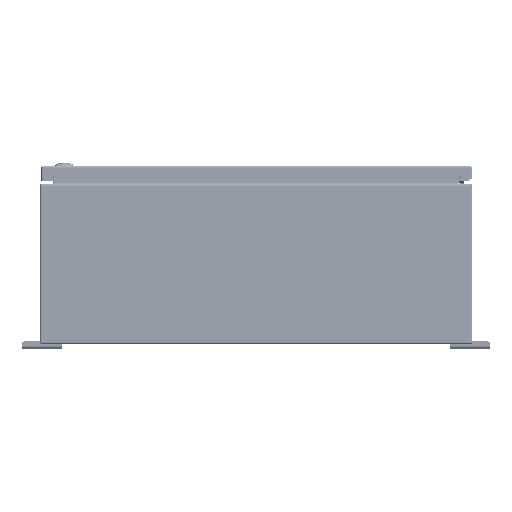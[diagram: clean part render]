
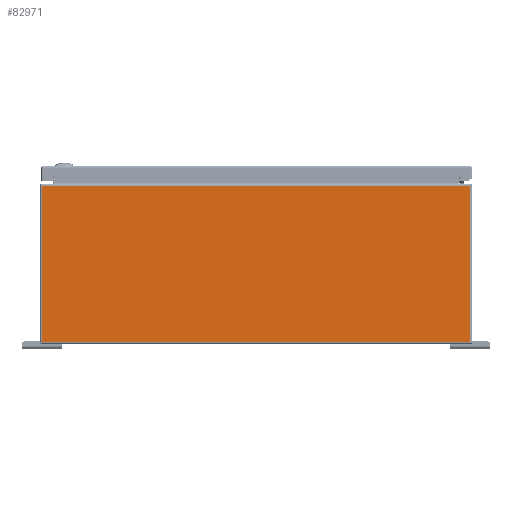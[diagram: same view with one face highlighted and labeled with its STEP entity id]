
A CAD part, left-side view. The second image highlights one B-rep face of the part: STEP entity #82971.
In plain terms, the highlighted planar face has unit normal (-1, 0, 0).
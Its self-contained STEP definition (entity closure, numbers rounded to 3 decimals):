
#4981=PLANE('',#89054);
#7071=LINE('',#118022,#13310);
#7072=LINE('',#118026,#13311);
#7073=LINE('',#118028,#13312);
#7074=LINE('',#118030,#13313);
#7075=LINE('',#118032,#13314);
#7076=LINE('',#118033,#13315);
#13310=VECTOR('',#96734,0.394);
#13311=VECTOR('',#96739,0.394);
#13312=VECTOR('',#96740,0.394);
#13313=VECTOR('',#96741,0.394);
#13314=VECTOR('',#96742,0.394);
#13315=VECTOR('',#96743,0.394);
#20829=FACE_OUTER_BOUND('',#25869,.T.);
#25869=EDGE_LOOP('',(#56062,#56063,#56064,#56065,#56066,#56067));
#34664=VERTEX_POINT('',#118004);
#34671=VERTEX_POINT('',#118021);
#34672=VERTEX_POINT('',#118025);
#34673=VERTEX_POINT('',#118027);
#34674=VERTEX_POINT('',#118029);
#34675=VERTEX_POINT('',#118031);
#42971=EDGE_CURVE('',#34664,#34671,#7071,.T.);
#42973=EDGE_CURVE('',#34672,#34664,#7072,.T.);
#42974=EDGE_CURVE('',#34672,#34673,#7073,.T.);
#42975=EDGE_CURVE('',#34674,#34673,#7074,.T.);
#42976=EDGE_CURVE('',#34675,#34674,#7075,.T.);
#42977=EDGE_CURVE('',#34675,#34671,#7076,.T.);
#56062=ORIENTED_EDGE('',*,*,#42973,.F.);
#56063=ORIENTED_EDGE('',*,*,#42974,.T.);
#56064=ORIENTED_EDGE('',*,*,#42975,.F.);
#56065=ORIENTED_EDGE('',*,*,#42976,.F.);
#56066=ORIENTED_EDGE('',*,*,#42977,.T.);
#56067=ORIENTED_EDGE('',*,*,#42971,.F.);
#82971=ADVANCED_FACE('',(#20829),#4981,.F.);
#89054=AXIS2_PLACEMENT_3D('',#118024,#96737,#96738);
#96734=DIRECTION('',(0.,0.,-1.));
#96737=DIRECTION('center_axis',(1.,0.,0.));
#96738=DIRECTION('ref_axis',(0.,0.,-1.));
#96739=DIRECTION('',(0.,-1.,0.));
#96740=DIRECTION('',(0.,1.,0.));
#96741=DIRECTION('',(0.,-1.,0.));
#96742=DIRECTION('',(0.,0.,1.));
#96743=DIRECTION('',(0.,-1.,0.));
#118004=CARTESIAN_POINT('',(-36.,-13.401,9.901));
#118021=CARTESIAN_POINT('',(-36.,-13.401,0.099));
#118022=CARTESIAN_POINT('',(-36.,-13.401,5.));
#118024=CARTESIAN_POINT('Origin',(-36.,0.,5.));
#118025=CARTESIAN_POINT('',(-36.,-12.626,9.901));
#118026=CARTESIAN_POINT('',(-36.,-6.725,9.901));
#118027=CARTESIAN_POINT('',(-36.,12.626,9.901));
#118028=CARTESIAN_POINT('',(-36.,6.705,9.901));
#118029=CARTESIAN_POINT('',(-36.,13.401,9.901));
#118030=CARTESIAN_POINT('',(-36.,-6.725,9.901));
#118031=CARTESIAN_POINT('',(-36.,13.401,0.099));
#118032=CARTESIAN_POINT('',(-36.,13.401,5.));
#118033=CARTESIAN_POINT('',(-36.,6.75,0.099));
